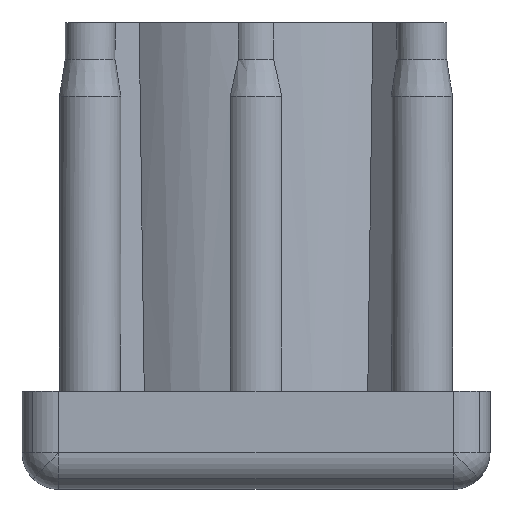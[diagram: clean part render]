
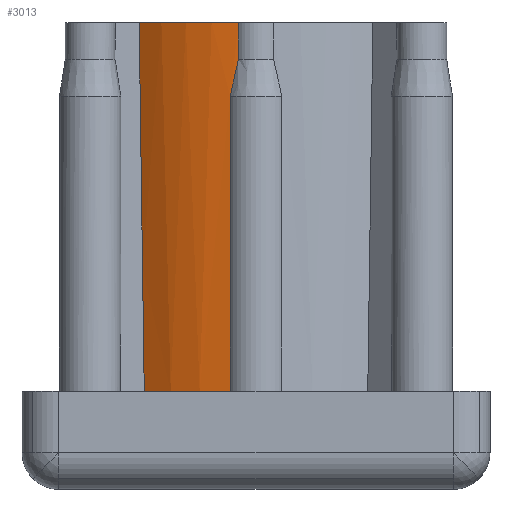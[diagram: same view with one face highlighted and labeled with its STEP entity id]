
A CAD part, front view. The second image highlights one B-rep face of the part: STEP entity #3013.
In plain terms, the highlighted cylindrical face has radius 15 mm (diameter 30 mm), a partial arc.
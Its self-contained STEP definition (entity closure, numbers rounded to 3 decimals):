
#140 = VERTEX_POINT ( 'NONE', #1378 ) ;
#225 = CARTESIAN_POINT ( 'NONE',  ( -1.632, -14.912, 33.442 ) ) ;
#230 = DIRECTION ( 'NONE',  ( 0., 0., 1. ) ) ;
#380 = CARTESIAN_POINT ( 'NONE',  ( -2.103, -14.852, 22.25 ) ) ;
#459 = CARTESIAN_POINT ( 'NONE',  ( -2.103, -14.852, 31.25 ) ) ;
#527 = CYLINDRICAL_SURFACE ( 'NONE', #1868, 15. ) ;
#619 = CARTESIAN_POINT ( 'NONE',  ( -1.432, -14.931, 34.25 ) ) ;
#629 = VERTEX_POINT ( 'NONE', #2062 ) ;
#830 = DIRECTION ( 'NONE',  ( 1., 0., 0. ) ) ;
#1068 = CARTESIAN_POINT ( 'NONE',  ( -1.432, -14.931, 37.25 ) ) ;
#1092 = CARTESIAN_POINT ( 'NONE',  ( -1.856, -14.887, 32.442 ) ) ;
#1258 = VERTEX_POINT ( 'NONE', #459 ) ;
#1302 = FACE_OUTER_BOUND ( 'NONE', #2776, .T. ) ;
#1327 = ORIENTED_EDGE ( 'NONE', *, *, #3635, .T. ) ;
#1378 = CARTESIAN_POINT ( 'NONE',  ( -9.098, -11.926, 7.25 ) ) ;
#1408 = CARTESIAN_POINT ( 'NONE',  ( 0., 0., 7.25 ) ) ;
#1496 = DIRECTION ( 'NONE',  ( -0.707, -0.707, -0.002 ) ) ;
#1535 = VECTOR ( 'NONE', #230, 1000. ) ;
#1583 = EDGE_CURVE ( 'NONE', #140, #629, #2809, .T. ) ;
#1647 = CARTESIAN_POINT ( 'NONE',  ( 0., 0., 37.25 ) ) ;
#1649 = EDGE_CURVE ( 'NONE', #3299, #2753, #2990, .T. ) ;
#1657 = DIRECTION ( 'NONE',  ( -1., 0., 0. ) ) ;
#1846 = DIRECTION ( 'NONE',  ( 0., 0., 1. ) ) ;
#1868 = AXIS2_PLACEMENT_3D ( 'NONE', #2805, #3426, #1657 ) ;
#1890 = ORIENTED_EDGE ( 'NONE', *, *, #1649, .T. ) ;
#1951 = DIRECTION ( 'NONE',  ( 1., 0., 0. ) ) ;
#1989 = CARTESIAN_POINT ( 'NONE',  ( -2.103, -14.852, 31.25 ) ) ;
#2011 = CARTESIAN_POINT ( 'NONE',  ( -1.432, -14.931, 35.75 ) ) ;
#2030 = AXIS2_PLACEMENT_3D ( 'NONE', #1408, #3765, #830 ) ;
#2062 = CARTESIAN_POINT ( 'NONE',  ( -2.103, -14.852, 7.25 ) ) ;
#2064 = EDGE_CURVE ( 'NONE', #1258, #3299, #2609, .T. ) ;
#2101 = AXIS2_PLACEMENT_3D ( 'NONE', #2963, #3521, #1496 ) ;
#2346 = AXIS2_PLACEMENT_3D ( 'NONE', #1647, #3689, #1951 ) ;
#2479 = ORIENTED_EDGE ( 'NONE', *, *, #2064, .T. ) ;
#2535 = VECTOR ( 'NONE', #1846, 1000. ) ;
#2609 = B_SPLINE_CURVE_WITH_KNOTS ( 'NONE', 3,
 ( #1989, #1092, #225, #3119 ),
 .UNSPECIFIED., .F., .F.,
 ( 4, 4 ),
 ( 0., 1. ),
 .UNSPECIFIED. ) ;
#2686 = EDGE_CURVE ( 'NONE', #629, #1258, #3599, .T. ) ;
#2753 = VERTEX_POINT ( 'NONE', #1068 ) ;
#2776 = EDGE_LOOP ( 'NONE', ( #2797, #1327, #3698, #3046, #2479, #1890 ) ) ;
#2797 = ORIENTED_EDGE ( 'NONE', *, *, #2808, .F. ) ;
#2805 = CARTESIAN_POINT ( 'NONE',  ( 0., 0., 37.25 ) ) ;
#2808 = EDGE_CURVE ( 'NONE', #2892, #2753, #2954, .T. ) ;
#2809 = CIRCLE ( 'NONE', #2030, 15. ) ;
#2892 = VERTEX_POINT ( 'NONE', #3430 ) ;
#2954 = CIRCLE ( 'NONE', #2346, 15. ) ;
#2963 = CARTESIAN_POINT ( 'NONE',  ( 34110.396, 34110.363, 120.499 ) ) ;
#2990 = LINE ( 'NONE', #2011, #1535 ) ;
#2998 = CIRCLE ( 'NONE', #2101, 48254.36 ) ;
#3013 = ADVANCED_FACE ( 'NONE', ( #1302 ), #527, .T. ) ;
#3046 = ORIENTED_EDGE ( 'NONE', *, *, #2686, .T. ) ;
#3119 = CARTESIAN_POINT ( 'NONE',  ( -1.432, -14.931, 34.25 ) ) ;
#3299 = VERTEX_POINT ( 'NONE', #619 ) ;
#3426 = DIRECTION ( 'NONE',  ( 0., 0., -1. ) ) ;
#3430 = CARTESIAN_POINT ( 'NONE',  ( -9.511, -11.599, 37.25 ) ) ;
#3521 = DIRECTION ( 'NONE',  ( 0.707, -0.707, 0.017 ) ) ;
#3599 = LINE ( 'NONE', #380, #2535 ) ;
#3635 = EDGE_CURVE ( 'NONE', #2892, #140, #2998, .T. ) ;
#3689 = DIRECTION ( 'NONE',  ( 0., 0., 1. ) ) ;
#3698 = ORIENTED_EDGE ( 'NONE', *, *, #1583, .T. ) ;
#3765 = DIRECTION ( 'NONE',  ( 0., 0., 1. ) ) ;
